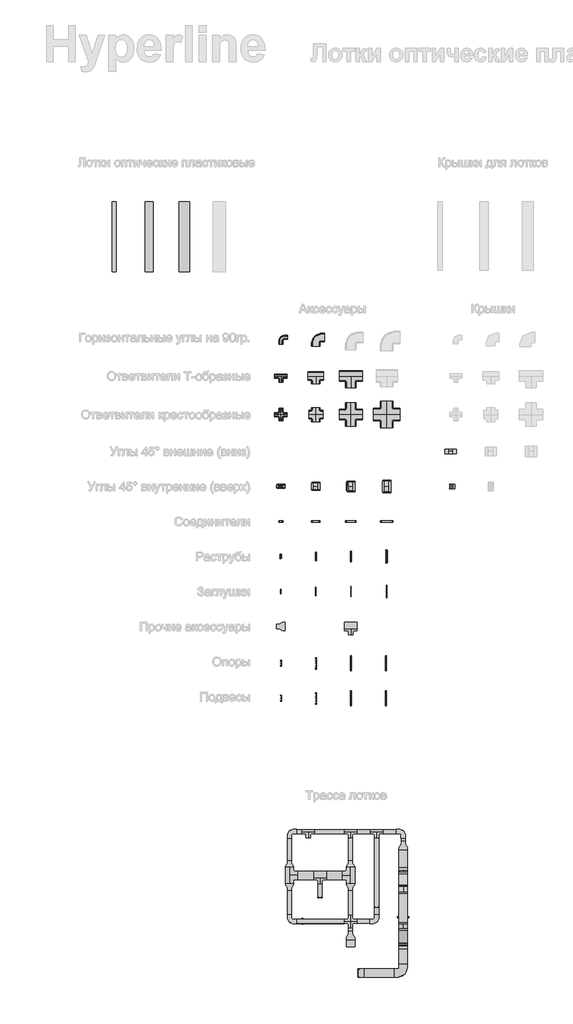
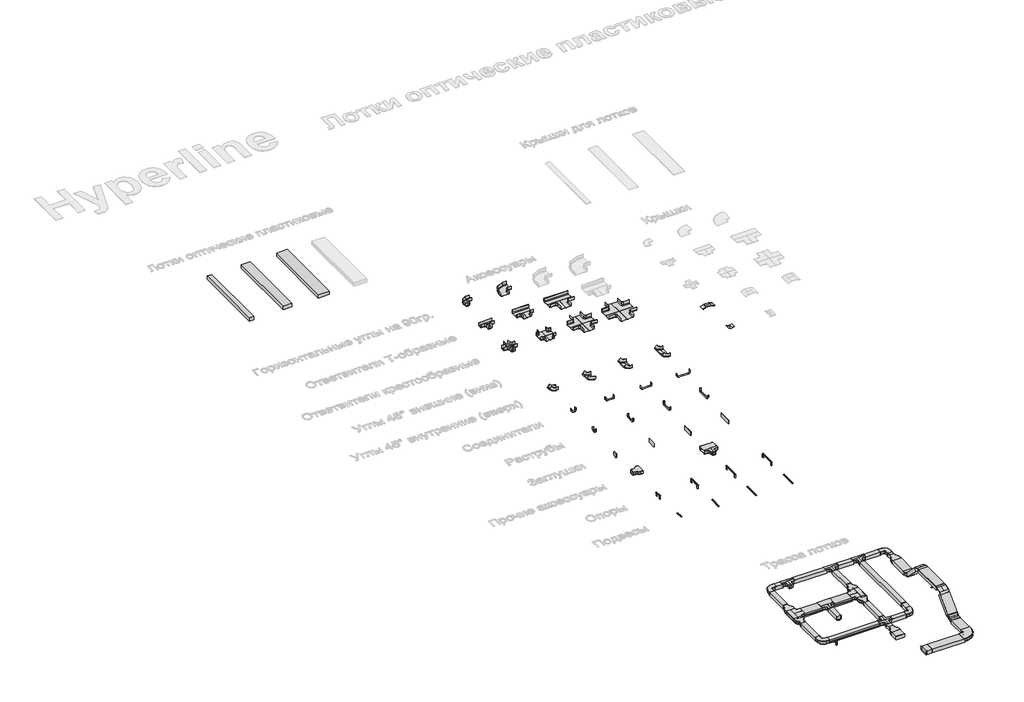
# One storey, part 1 of 11: 92 cable carrier fittings, 28 cable carrier segments.
"""IFC4 building model written with IfcOpenShell, lengths in millimetres."""

from ifc_helpers import new_model, si_unit, frame, origin, place, context, project, spatial, polyline, outline, extrude, transform, mapped, element, save
from components import cable_carrier_fitting_61f211ba, cable_carrier_fitting_c6026d33, cable_carrier_fitting_2b42971a, cable_carrier_fitting_88c24c74, cable_carrier_fitting_4b1483c7, cable_carrier_fitting_1155e773, cable_carrier_fitting_af3ef7cb, cable_carrier_fitting_16fe6e49, cable_carrier_fitting_982ae81b, cable_carrier_fitting_4c80ffbf, cable_carrier_fitting_9f29c945, cable_carrier_fitting_a6652477, cable_carrier_fitting_ee7e6493, cable_carrier_fitting_f618252d, cable_carrier_fitting_21d1bafc, cable_carrier_fitting_c87bc051, cable_carrier_fitting_9178dd5c, cable_carrier_fitting_0fe43b8c, cable_carrier_fitting_54b00675, cable_carrier_fitting_23931724, cable_carrier_fitting_965c9b59, cable_carrier_fitting_6c60c4c2, cable_carrier_fitting_08320c8d, cable_carrier_fitting_ac9cbfa4, cable_carrier_fitting_c851f92b, cable_carrier_fitting_47155b8e, cable_carrier_fitting_5769e5f2, cable_carrier_fitting_33d41878, cable_carrier_fitting_1b5bf073, cable_carrier_fitting_6c73aa63, cable_carrier_fitting_607e7183, cable_carrier_fitting_59de4e2b, cable_carrier_fitting_dffab509, cable_carrier_fitting_50b0d15a, cable_carrier_fitting_166d4458, cable_carrier_fitting_28f04403, cable_carrier_fitting_a7401430, cable_carrier_fitting_f8632dee, cable_carrier_fitting_9f67b875, cable_carrier_fitting_865a7457, cable_carrier_fitting_3dfe4c8f, cable_carrier_fitting_5b634e76, cable_carrier_fitting_eb514e49, cable_carrier_fitting_c3bb7252, cable_carrier_fitting_38266bb1, cable_carrier_fitting_df319fd5, cable_carrier_fitting_8dd5b208, cable_carrier_fitting_287ba553, cable_carrier_fitting_dee94531, cable_carrier_fitting_b2320f43, cable_carrier_fitting_acd78cd3, cable_carrier_fitting_dcf25ac8, cable_carrier_fitting_25f01132

model = new_model("IFC4")

# Units and contexts
model_context = context("Model", 3, world=origin())
ifc_project = project(units=[si_unit("LENGTHUNIT", "METRE", prefix="MILLI")], contexts=[model_context])

# Site, building, storey
site = spatial("IfcSite", under=ifc_project)
building = spatial("IfcBuilding", under=site)
storey = spatial("IfcBuildingStorey", under=building, Name="Этаж 01", Elevation=0.0)

# Cable carrier fittings
placement = place(None, origin())
cable_carrier_fitting_shape = cable_carrier_fitting_61f211ba(model_context)
element("IfcCableCarrierFitting", 1, ObjectType="CCT_Hyperline_FBTR-TTR Заглушка для оптического лотка : Заглушка для оптического лотка", at=placement, inside=storey, context=model_context, shape_type="MappedRepresentation", body=[
    mapped(cable_carrier_fitting_shape, transform((-11725.7109643, -10485.4372521, 150.0145793), x_axis=(-1.0, 0.0, 0.0), y_axis=(0.0, -0.99999999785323, 6.552510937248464e-05), z_axis=(0.0, 6.552510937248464e-05, 0.99999999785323))),
])
cable_carrier_fitting_2_shape = cable_carrier_fitting_c6026d33(model_context)
element("IfcCableCarrierFitting", 2, ObjectType="CCT_Hyperline_FBTR_EFS_Опора_для_установки_оптического_лотка : Опора для установки оптического лотка", at=placement, inside=storey, context=model_context, shape_type="MappedRepresentation", body=[
    mapped(cable_carrier_fitting_2_shape, transform((-13098.2104746, -9755.8836008, 0.0), x_axis=(0.0, 1.0, 0.0), y_axis=(-1.0, 0.0, 0.0), z_axis=(0.0, 0.0, 1.0))),
])
element("IfcCableCarrierFitting", 3, ObjectType="CCT_Hyperline_FBTR_EFS_Опора_для_установки_оптического_лотка : Опора для установки оптического лотка", at=placement, inside=storey, context=model_context, shape_type="MappedRepresentation", body=[
    mapped(cable_carrier_fitting_2_shape, transform((-13717.6934482, -2392.4690468, 0.0), x_axis=(0.0, 1.0, 0.0), y_axis=(-1.0, 0.0, 0.0), z_axis=(0.0, 0.0, 1.0))),
])
cable_carrier_fitting_3_shape = cable_carrier_fitting_2b42971a(model_context)
element("IfcCableCarrierFitting", 4, ObjectType="CCT_Hyperline_FBTR_BAR_Подвес_для_оптического_лотка : Подвес для оптического лотка", at=placement, inside=storey, context=model_context, shape_type="MappedRepresentation", body=[
    mapped(cable_carrier_fitting_3_shape, transform((-13717.6934482, -3392.4690468, 0.0), x_axis=(0.0, 1.0, 0.0), y_axis=(-1.0, 0.0, 0.0), z_axis=(0.0, 0.0, 1.0))),
])
cable_carrier_fitting_4_shape = cable_carrier_fitting_88c24c74(model_context)
element("IfcCableCarrierFitting", 5, ObjectType="ССT_Hyperline_FBTR-IRS45 Угол 45° внутренний (вверх) для оптического лотка : Угол 45° внутренний (вверх) для оптического лотка", at=placement, inside=storey, context=model_context, shape_type="MappedRepresentation", body=[
    mapped(cable_carrier_fitting_4_shape, transform((-13717.6934482, 2656.5295573, 100.0), x_axis=(0.7071067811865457, 0.0, -0.7071067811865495), y_axis=(0.7071067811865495, 0.0, 0.7071067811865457), z_axis=(0.0, -1.0, 0.0))),
])
cable_carrier_fitting_5_shape = cable_carrier_fitting_4b1483c7(model_context)
element("IfcCableCarrierFitting", 6, ObjectType="ССT_Hyperline_FBTR-IRS45 Угол 45° внутренний (вверх) для оптического лотка : Угол 45° внутренний (вверх) для оптического лотка", at=placement, inside=storey, context=model_context, shape_type="MappedRepresentation", body=[
    mapped(cable_carrier_fitting_5_shape, transform((-12717.6934482, 2656.5295573, 100.0), x_axis=(0.7071067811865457, 0.0, -0.7071067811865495), y_axis=(0.7071067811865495, 0.0, 0.7071067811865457), z_axis=(0.0, -1.0, 0.0))),
])
cable_carrier_fitting_6_shape = cable_carrier_fitting_1155e773(model_context)
element("IfcCableCarrierFitting", 7, ObjectType="ССT_Hyperline_FBTR-IRS45 Угол 45° внутренний (вверх) для оптического лотка : Угол 45° внутренний (вверх) для оптического лотка", at=placement, inside=storey, context=model_context, shape_type="MappedRepresentation", body=[
    mapped(cable_carrier_fitting_6_shape, transform((-11717.6934482, 2656.5295573, 100.0), x_axis=(0.7071067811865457, 0.0, -0.7071067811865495), y_axis=(0.7071067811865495, 0.0, 0.7071067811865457), z_axis=(0.0, -1.0, 0.0))),
])
cable_carrier_fitting_7_shape = cable_carrier_fitting_af3ef7cb(model_context)
element("IfcCableCarrierFitting", 8, ObjectType="ССT_Hyperline_FBTR-IRS45 Угол 45° внутренний (вверх) для оптического лотка : Угол 45° внутренний (вверх) для оптического лотка", at=placement, inside=storey, context=model_context, shape_type="MappedRepresentation", body=[
    mapped(cable_carrier_fitting_7_shape, transform((-10692.0217692, 2656.5295573, 100.0), x_axis=(0.7071067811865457, 0.0, -0.7071067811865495), y_axis=(0.7071067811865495, 0.0, 0.7071067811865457), z_axis=(0.0, -1.0, 0.0))),
])
element("IfcCableCarrierFitting", 9, ObjectType="ССT_Hyperline_FBTR-IRS45 Угол 45° внутренний (вверх) для оптического лотка : Угол 45° внутренний (вверх) для оптического лотка", at=placement, inside=storey, context=model_context, shape_type="MappedRepresentation", body=[
    mapped(cable_carrier_fitting_5_shape, transform((-10218.1543642, -10422.4542398, 123.429361), x_axis=(0.0, 1.0, 0.0), y_axis=(0.0, 0.0, 1.0), z_axis=(1.0, 0.0, 0.0))),
])
element("IfcCableCarrierFitting", 10, ObjectType="ССT_Hyperline_FBTR-IRS45 Угол 45° внутренний (вверх) для оптического лотка : Угол 45° внутренний (вверх) для оптического лотка", at=placement, inside=storey, context=model_context, shape_type="MappedRepresentation", body=[
    mapped(cable_carrier_fitting_5_shape, transform((-10218.1543642, -8350.8836008, 150.0), x_axis=(0.0, 0.7071067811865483, -0.7071067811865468), y_axis=(0.0, 0.7071067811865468, 0.7071067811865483), z_axis=(1.0, 0.0, 0.0))),
])
cable_carrier_fitting_8_shape = cable_carrier_fitting_16fe6e49(model_context)
element("IfcCableCarrierFitting", 11, ObjectType="CCT_Hyperline_FBTR-ELB90-CVR_Крышка на горизонтальный изгиб на 90°пластиковый : Крышка на горизонтальный изгиб на 90° пластиковый", at=placement, inside=storey, context=model_context, shape_type="MappedRepresentation", body=[
    mapped(cable_carrier_fitting_8_shape, transform((-10309.4294383, -7358.9394079, 150.0), x_axis=(1.0, 0.0, 0.0), y_axis=(0.0, 1.0, 0.0), z_axis=(0.0, 0.0, 1.0))),
])
element("IfcCableCarrierFitting", 12, ObjectType="CCT_Hyperline_FBTR-ELB90-CVR_Крышка на горизонтальный изгиб на 90°пластиковый : Крышка на горизонтальный изгиб на 90° пластиковый", at=placement, inside=storey, context=model_context, shape_type="MappedRepresentation", body=[
    mapped(cable_carrier_fitting_8_shape, transform((-11143.7101712, -9664.6085266, 150.0), x_axis=(0.0, -1.0, 0.0), y_axis=(1.0, 0.0, 0.0), z_axis=(0.0, 0.0, 1.0))),
])
element("IfcCableCarrierFitting", 13, ObjectType="CCT_Hyperline_FBTR-ELB90-CVR_Крышка на горизонтальный изгиб на 90°пластиковый : Крышка на горизонтальный изгиб на 90° пластиковый", at=placement, inside=storey, context=model_context, shape_type="MappedRepresentation", body=[
    mapped(cable_carrier_fitting_8_shape, transform((-13376.87929, -9592.8277937, 150.0), x_axis=(-1.0, 0.0, 0.0), y_axis=(0.0, -1.0, 0.0), z_axis=(0.0, 0.0, 1.0))),
])
element("IfcCableCarrierFitting", 14, ObjectType="CCT_Hyperline_FBTR-ELB90-CVR_Крышка на горизонтальный изгиб на 90°пластиковый : Крышка на горизонтальный изгиб на 90° пластиковый", at=placement, inside=storey, context=model_context, shape_type="MappedRepresentation", body=[
    mapped(cable_carrier_fitting_8_shape, transform((-13305.0985571, -7287.158675, 150.0), x_axis=(0.0, 1.0, 0.0), y_axis=(-1.0, 0.0, 0.0), z_axis=(0.0, 0.0, 1.0))),
])
cable_carrier_fitting_9_shape = cable_carrier_fitting_982ae81b(model_context)
element("IfcCableCarrierFitting", 15, ObjectType="CCT_Hyperline_FBTR-ELB90-CVR_Крышка на горизонтальный изгиб на 90°пластиковый : Крышка на горизонтальный изгиб на 90° пластиковый", at=placement, inside=storey, context=model_context, shape_type="MappedRepresentation", body=[
    mapped(cable_carrier_fitting_9_shape, transform((-10381.2101712, -11139.6085266, 123.429361), x_axis=(0.0, -1.0, 0.0), y_axis=(1.0, 0.0, 0.0), z_axis=(0.0, 0.0, 1.0))),
])
cable_carrier_fitting_10_shape = cable_carrier_fitting_4c80ffbf(model_context)
element("IfcCableCarrierFitting", 16, ObjectType="CCT_Hyperline_FBTR-CRS-CVR_Крышка на ответвитель крестообразный пластиковый : Крышка на ответвитель крестообразный пластиковый", at=placement, inside=storey, context=model_context, shape_type="MappedRepresentation", body=[
    mapped(cable_carrier_fitting_10_shape, transform((-11725.7109643, -9755.8836008, 150.0), x_axis=(-1.0, 0.0, 0.0), y_axis=(0.0, -1.0, 0.0), z_axis=(0.0, 0.0, 1.0))),
])
cable_carrier_fitting_11_shape = cable_carrier_fitting_9f29c945(model_context)
element("IfcCableCarrierFitting", 17, ObjectType="CCT_Hyperline_FBTR-ERS45-CVR Крышка на угол 45° внешний (вниз) для оптического лотка : Крышка на угол 45° внешний (вниз) для оптического лотка", at=placement, inside=storey, context=model_context, shape_type="MappedRepresentation", body=[
    mapped(cable_carrier_fitting_11_shape, transform((-8855.9617915, 3656.5295573, 100.0), x_axis=(0.0, 0.0, 1.0), y_axis=(1.0, 0.0, 0.0), z_axis=(0.0, 1.0, 0.0))),
])
cable_carrier_fitting_12_shape = cable_carrier_fitting_a6652477(model_context)
element("IfcCableCarrierFitting", 18, ObjectType="CCT_Hyperline_FBTR-ERS45-CVR Крышка на угол 45° внешний (вниз) для оптического лотка : Крышка на угол 45° внешний (вниз) для оптического лотка", at=placement, inside=storey, context=model_context, shape_type="MappedRepresentation", body=[
    mapped(cable_carrier_fitting_12_shape, transform((-10218.1543642, -8882.2333381, 604.1071841), x_axis=(0.0, 0.38268343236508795, 0.9238795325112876), y_axis=(0.0, -0.9238795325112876, 0.38268343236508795), z_axis=(1.0, 0.0, 0.0))),
])
element("IfcCableCarrierFitting", 19, ObjectType="CCT_Hyperline_FBTR-ERS45-CVR Крышка на угол 45° внешний (вниз) для оптического лотка : Крышка на угол 45° внешний (вниз) для оптического лотка", at=placement, inside=storey, context=model_context, shape_type="MappedRepresentation", body=[
    mapped(cable_carrier_fitting_12_shape, transform((-10218.1543642, -9864.5338635, 604.1071841), x_axis=(0.0, -0.3826834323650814, 0.9238795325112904), y_axis=(0.0, 0.9238795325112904, 0.3826834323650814), z_axis=(-1.0, 0.0, 0.0))),
])
cable_carrier_fitting_13_shape = cable_carrier_fitting_ee7e6493(model_context)
element("IfcCableCarrierFitting", 20, ObjectType="CCT_Hyperline_FBTR-IRS45-CVR Крышка на вертикальный угол 45° внутренний (вверх) для оптического лотка : Крышка на вертикальный угол 45° внутренний (вверх) для оптического лотка", at=placement, inside=storey, context=model_context, shape_type="MappedRepresentation", body=[
    mapped(cable_carrier_fitting_13_shape, transform((-10218.1543642, -10440.5113618, 167.02311), x_axis=(0.0, -0.3826834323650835, 0.9238795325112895), y_axis=(0.0, -0.9238795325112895, -0.3826834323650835), z_axis=(1.0, 0.0, 0.0))),
])
element("IfcCableCarrierFitting", 21, ObjectType="CCT_Hyperline_FBTR-IRS45-CVR Крышка на вертикальный угол 45° внутренний (вверх) для оптического лотка : Крышка на вертикальный угол 45° внутренний (вверх) для оптического лотка", at=placement, inside=storey, context=model_context, shape_type="MappedRepresentation", body=[
    mapped(cable_carrier_fitting_13_shape, transform((-10218.1543642, -8332.8264788, 193.5937489), x_axis=(0.0, 0.3826834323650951, 0.9238795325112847), y_axis=(0.0, -0.9238795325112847, 0.3826834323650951), z_axis=(1.0, 0.0, 0.0))),
])
cable_carrier_fitting_14_shape = cable_carrier_fitting_f618252d(model_context)
element("IfcCableCarrierFitting", 22, ObjectType="CCT_Hyperline_FBTR-IRS45-CVR Крышка на вертикальный угол 45° внутренний (вверх) для оптического лотка : Крышка на вертикальный угол 45° внутренний (вверх) для оптического лотка", at=placement, inside=storey, context=model_context, shape_type="MappedRepresentation", body=[
    mapped(cable_carrier_fitting_14_shape, transform((-8820.250773, 2656.5295573, 100.0), x_axis=(0.0, 0.0, 1.0), y_axis=(1.0, 0.0, 0.0), z_axis=(0.0, 1.0, 0.0))),
])
cable_carrier_fitting_15_shape = cable_carrier_fitting_21d1bafc(model_context)
element("IfcCableCarrierFitting", 23, ObjectType="ССT_Hyperline_FBTR-CVR-2000 Крышка для оптического лотка : Крышка для оптического лотка", at=placement, inside=storey, context=model_context, shape_type="MappedRepresentation", body=[
    mapped(cable_carrier_fitting_15_shape, transform((-10218.1543642, -9595.8836008, 650.0), x_axis=(0.0, -1.0, 0.0), y_axis=(1.0, 0.0, 0.0), z_axis=(0.0, 0.0, 1.0))),
])
cable_carrier_fitting_16_shape = cable_carrier_fitting_c87bc051(model_context)
element("IfcCableCarrierFitting", 24, ObjectType="ССT_Hyperline_FBTR-CVR-2000 Крышка для оптического лотка : Крышка для оптического лотка", at=placement, inside=storey, context=model_context, shape_type="MappedRepresentation", body=[
    mapped(cable_carrier_fitting_16_shape, transform((-12083.2109643, -9755.8836008, 90.9703689), x_axis=(1.0, 0.0, 0.0), y_axis=(0.0, 1.0, 0.0), z_axis=(0.0, 0.0, 1.0))),
])
cable_carrier_fitting_17_shape = cable_carrier_fitting_9178dd5c(model_context)
element("IfcCableCarrierFitting", 25, ObjectType="ССT_Hyperline_FBTR-CVR-2000 Крышка для оптического лотка : Крышка для оптического лотка", at=placement, inside=storey, context=model_context, shape_type="MappedRepresentation", body=[
    mapped(cable_carrier_fitting_17_shape, transform((-12949.4326642, -8445.8836008, 90.9703689), x_axis=(1.0, 0.0, 0.0), y_axis=(0.0, 1.0, 0.0), z_axis=(0.0, 0.0, 1.0))),
])
cable_carrier_fitting_18_shape = cable_carrier_fitting_0fe43b8c(model_context)
element("IfcCableCarrierFitting", 26, ObjectType="ССT_Hyperline_FBTR-CVR-2000 Крышка для оптического лотка : Крышка для оптического лотка", at=placement, inside=storey, context=model_context, shape_type="MappedRepresentation", body=[
    mapped(cable_carrier_fitting_18_shape, transform((-12130.7109643, -8445.8836008, 90.9703689), x_axis=(1.0, 0.0, 0.0), y_axis=(0.0, 1.0, 0.0), z_axis=(0.0, 0.0, 1.0))),
])
cable_carrier_fitting_19_shape = cable_carrier_fitting_54b00675(model_context)
element("IfcCableCarrierFitting", 27, ObjectType="CCT_Hyperline_FBTR-TSP Раструб для оптического лотка : Раструб для оптического лотка", at=placement, inside=storey, context=model_context, shape_type="MappedRepresentation", body=[
    mapped(cable_carrier_fitting_19_shape, transform((-13717.6934482, 656.5295573, 123.429361), x_axis=(0.0, 1.0, 0.0), y_axis=(-1.0, 0.0, 0.0), z_axis=(0.0, 0.0, 1.0))),
])
element("IfcCableCarrierFitting", 28, ObjectType="CCT_Hyperline_FBTR-TSP Раструб для оптического лотка : Раструб для оптического лотка", at=placement, inside=storey, context=model_context, shape_type="MappedRepresentation", body=[
    mapped(cable_carrier_fitting_19_shape, transform((-12596.9326642, -9063.879228, 150.0296308), x_axis=(-1.0, 0.0, 0.0), y_axis=(0.0, -0.9999999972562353, 7.407786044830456e-05), z_axis=(0.0, 7.407786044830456e-05, 0.9999999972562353))),
])
cable_carrier_fitting_20_shape = cable_carrier_fitting_23931724(model_context)
element("IfcCableCarrierFitting", 29, ObjectType="CCT_Hyperline_FBTR-TSP Раструб для оптического лотка : Раструб для оптического лотка", at=placement, inside=storey, context=model_context, shape_type="MappedRepresentation", body=[
    mapped(cable_carrier_fitting_20_shape, transform((-12717.6934482, 656.5295573, 123.429361), x_axis=(0.0, 1.0, 0.0), y_axis=(-1.0, 0.0, 0.0), z_axis=(0.0, 0.0, 1.0))),
])
element("IfcCableCarrierFitting", 30, ObjectType="CCT_Hyperline_FBTR-TSP Раструб для оптического лотка : Раструб для оптического лотка", at=placement, inside=storey, context=model_context, shape_type="MappedRepresentation", body=[
    mapped(cable_carrier_fitting_20_shape, transform((-11493.7109643, -11230.8836008, 123.429361), x_axis=(0.0, 1.0, 0.0), y_axis=(-1.0, 0.0, 0.0), z_axis=(0.0, 0.0, 1.0))),
])
cable_carrier_fitting_21_shape = cable_carrier_fitting_965c9b59(model_context)
element("IfcCableCarrierFitting", 31, ObjectType="CCT_Hyperline_FBTR-TSP Раструб для оптического лотка : Раструб для оптического лотка", at=placement, inside=storey, context=model_context, shape_type="MappedRepresentation", body=[
    mapped(cable_carrier_fitting_21_shape, transform((-11717.6934482, 656.5295573, 123.429361), x_axis=(0.0, 1.0, 0.0), y_axis=(-1.0, 0.0, 0.0), z_axis=(0.0, 0.0, 1.0))),
])
cable_carrier_fitting_22_shape = cable_carrier_fitting_6c60c4c2(model_context)
element("IfcCableCarrierFitting", 32, ObjectType="CCT_Hyperline_FBTR-TSP Раструб для оптического лотка : Раструб для оптического лотка", at=placement, inside=storey, context=model_context, shape_type="MappedRepresentation", body=[
    mapped(cable_carrier_fitting_22_shape, transform((-10692.0217692, 656.5295573, 123.429361), x_axis=(0.0, 1.0, 0.0), y_axis=(-1.0, 0.0, 0.0), z_axis=(0.0, 0.0, 1.0))),
])
cable_carrier_fitting_23_shape = cable_carrier_fitting_08320c8d(model_context)
element("IfcCableCarrierFitting", 33, ObjectType="CCT_Hyperline_FBTR-TTR Заглушка для оптического лотка : Заглушка для оптического лотка", at=placement, inside=storey, context=model_context, shape_type="MappedRepresentation", body=[
    mapped(cable_carrier_fitting_23_shape, transform((-13717.6934482, -343.4704427, 0.0), x_axis=(0.0, 1.0, 0.0), y_axis=(-1.0, 0.0, 0.0), z_axis=(0.0, 0.0, 1.0))),
])
cable_carrier_fitting_24_shape = cable_carrier_fitting_ac9cbfa4(model_context)
element("IfcCableCarrierFitting", 34, ObjectType="CCT_Hyperline_FBTR-TTR Заглушка для оптического лотка : Заглушка для оптического лотка", at=placement, inside=storey, context=model_context, shape_type="MappedRepresentation", body=[
    mapped(cable_carrier_fitting_24_shape, transform((-12717.6934482, -343.4704427, 0.0), x_axis=(0.0, 1.0, 0.0), y_axis=(-1.0, 0.0, 0.0), z_axis=(0.0, 0.0, 1.0))),
])
cable_carrier_fitting_25_shape = cable_carrier_fitting_c851f92b(model_context)
element("IfcCableCarrierFitting", 35, ObjectType="CCT_Hyperline_FBTR-TTR Заглушка для оптического лотка : Заглушка для оптического лотка", at=placement, inside=storey, context=model_context, shape_type="MappedRepresentation", body=[
    mapped(cable_carrier_fitting_25_shape, transform((-11717.6934482, -343.4704427, 0.0), x_axis=(0.0, 1.0, 0.0), y_axis=(-1.0, 0.0, 0.0), z_axis=(0.0, 0.0, 1.0))),
])
cable_carrier_fitting_26_shape = cable_carrier_fitting_47155b8e(model_context)
element("IfcCableCarrierFitting", 36, ObjectType="CCT_Hyperline_FBTR-TTR Заглушка для оптического лотка : Заглушка для оптического лотка", at=placement, inside=storey, context=model_context, shape_type="MappedRepresentation", body=[
    mapped(cable_carrier_fitting_26_shape, transform((-10692.0217692, -343.4704427, 0.0), x_axis=(0.0, 1.0, 0.0), y_axis=(-1.0, 0.0, 0.0), z_axis=(0.0, 0.0, 1.0))),
])
cable_carrier_fitting_27_shape = cable_carrier_fitting_5769e5f2(model_context)
element("IfcCableCarrierFitting", 37, ObjectType="CCT_Hyperline_FBTR_BAR_Подвес_для_оптического_лотка : Подвес для оптического лотка", at=placement, inside=storey, context=model_context, shape_type="MappedRepresentation", body=[
    mapped(cable_carrier_fitting_27_shape, transform((-10218.1543642, -9633.3836008, 0.0), x_axis=(1.0, 0.0, 0.0), y_axis=(0.0, 1.0, 0.0), z_axis=(0.0, 0.0, 1.0))),
])
cable_carrier_fitting_28_shape = cable_carrier_fitting_33d41878(model_context)
element("IfcCableCarrierFitting", 38, ObjectType="CCT_Hyperline_FBTR_BAR_Подвес_для_оптического_лотка : Подвес для оптического лотка", at=placement, inside=storey, context=model_context, shape_type="MappedRepresentation", body=[
    mapped(cable_carrier_fitting_28_shape, transform((-10218.1543642, -9693.3836008, 0.0), x_axis=(1.0, 0.0, 0.0), y_axis=(0.0, 1.0, 0.0), z_axis=(0.0, 0.0, 1.0))),
])
cable_carrier_fitting_29_shape = cable_carrier_fitting_1b5bf073(model_context)
element("IfcCableCarrierFitting", 39, ObjectType="CCT_Hyperline_FBTR_BAR_Подвес_для_оптического_лотка : Подвес для оптического лотка", at=placement, inside=storey, context=model_context, shape_type="MappedRepresentation", body=[
    mapped(cable_carrier_fitting_29_shape, transform((-12717.6934482, -3392.4690468, 0.0), x_axis=(0.0, 1.0, 0.0), y_axis=(-1.0, 0.0, 0.0), z_axis=(0.0, 0.0, 1.0))),
])
cable_carrier_fitting_30_shape = cable_carrier_fitting_6c73aa63(model_context)
element("IfcCableCarrierFitting", 40, ObjectType="CCT_Hyperline_FBTR_BAR_Подвес_для_оптического_лотка : Подвес для оптического лотка", at=placement, inside=storey, context=model_context, shape_type="MappedRepresentation", body=[
    mapped(cable_carrier_fitting_30_shape, transform((-11717.6934482, -3392.4690468, 0.0), x_axis=(0.0, 1.0, 0.0), y_axis=(-1.0, 0.0, 0.0), z_axis=(0.0, 0.0, 1.0))),
])
element("IfcCableCarrierFitting", 41, ObjectType="CCT_Hyperline_FBTR_BAR_Подвес_для_оптического_лотка : Подвес для оптического лотка", at=placement, inside=storey, context=model_context, shape_type="MappedRepresentation", body=[
    mapped(cable_carrier_fitting_30_shape, transform((-10717.6934482, -3392.4690468, 0.0), x_axis=(0.0, 1.0, 0.0), y_axis=(-1.0, 0.0, 0.0), z_axis=(0.0, 0.0, 1.0))),
])
cable_carrier_fitting_31_shape = cable_carrier_fitting_607e7183(model_context)
element("IfcCableCarrierFitting", 42, ObjectType="CCT_Hyperline_FBTR_EFS_Опора_для_установки_оптического_лотка : Опора для установки оптического лотка", at=placement, inside=storey, context=model_context, shape_type="MappedRepresentation", body=[
    mapped(cable_carrier_fitting_31_shape, transform((-12717.6934482, -2392.4690468, 0.0), x_axis=(0.0, 1.0, 0.0), y_axis=(-1.0, 0.0, 0.0), z_axis=(0.0, 0.0, 1.0))),
])
cable_carrier_fitting_32_shape = cable_carrier_fitting_59de4e2b(model_context)
element("IfcCableCarrierFitting", 43, ObjectType="CCT_Hyperline_FBTR_EFS_Опора_для_установки_оптического_лотка : Опора для установки оптического лотка", at=placement, inside=storey, context=model_context, shape_type="MappedRepresentation", body=[
    mapped(cable_carrier_fitting_32_shape, transform((-11717.6934482, -2392.4690468, 0.0), x_axis=(0.0, 1.0, 0.0), y_axis=(-1.0, 0.0, 0.0), z_axis=(0.0, 0.0, 1.0))),
])
element("IfcCableCarrierFitting", 44, ObjectType="CCT_Hyperline_FBTR_EFS_Опора_для_установки_оптического_лотка : Опора для установки оптического лотка", at=placement, inside=storey, context=model_context, shape_type="MappedRepresentation", body=[
    mapped(cable_carrier_fitting_32_shape, transform((-10717.6934482, -2392.4690468, 0.0), x_axis=(0.0, 1.0, 0.0), y_axis=(-1.0, 0.0, 0.0), z_axis=(0.0, 0.0, 1.0))),
])
cable_carrier_fitting_33_shape = cable_carrier_fitting_dffab509(model_context)
element("IfcCableCarrierFitting", 45, ObjectType="CCT_Hyperline_FBTR-240-RDC120 Переход 240-120 для оптического лотка : Переход 240-120 для оптического лотка", at=placement, inside=storey, context=model_context, shape_type="MappedRepresentation", body=[
    mapped(cable_carrier_fitting_33_shape, transform((-13468.1543642, -8140.8836008, 150.0), x_axis=(1.0, 0.0, 0.0), y_axis=(0.0, 1.0, 0.0), z_axis=(0.0, 0.0, 1.0))),
])
element("IfcCableCarrierFitting", 46, ObjectType="CCT_Hyperline_FBTR-240-RDC120 Переход 240-120 для оптического лотка : Переход 240-120 для оптического лотка", at=placement, inside=storey, context=model_context, shape_type="MappedRepresentation", body=[
    mapped(cable_carrier_fitting_33_shape, transform((-11725.7109643, -8750.8836008, 150.0), x_axis=(-1.0, 0.0, 0.0), y_axis=(0.0, -1.0, 0.0), z_axis=(0.0, 0.0, 1.0))),
])
element("IfcCableCarrierFitting", 47, ObjectType="CCT_Hyperline_FBTR-240-RDC120 Переход 240-120 для оптического лотка : Переход 240-120 для оптического лотка", at=placement, inside=storey, context=model_context, shape_type="MappedRepresentation", body=[
    mapped(cable_carrier_fitting_33_shape, transform((-10218.1543642, -7595.8836008, 150.0), x_axis=(1.0, 0.0, 0.0), y_axis=(0.0, 1.0, 0.0), z_axis=(0.0, 0.0, 1.0))),
])
element("IfcCableCarrierFitting", 48, ObjectType="CCT_Hyperline_FBTR-240-RDC120 Переход 240-120 для оптического лотка : Переход 240-120 для оптического лотка", at=placement, inside=storey, context=model_context, shape_type="MappedRepresentation", body=[
    mapped(cable_carrier_fitting_33_shape, transform((-13468.1543642, -8750.8836008, 150.0), x_axis=(-1.0, 0.0, 0.0), y_axis=(0.0, -1.0, 0.0), z_axis=(0.0, 0.0, 1.0))),
])
cable_carrier_fitting_34_shape = cable_carrier_fitting_50b0d15a(model_context)
element("IfcCableCarrierFitting", 49, ObjectType="CCT_Hyperline_FBTR-240-RDC120-CVR Крышка на переход 240-120 для оптического лотка : Крышка на переход 240-120 для оптического лотка", at=placement, inside=storey, context=model_context, shape_type="MappedRepresentation", body=[
    mapped(cable_carrier_fitting_34_shape, transform((-13468.1543642, -8140.8836008, 150.0), x_axis=(0.0, 1.0, 0.0), y_axis=(-1.0, 0.0, 0.0), z_axis=(0.0, 0.0, 1.0))),
])
element("IfcCableCarrierFitting", 50, ObjectType="CCT_Hyperline_FBTR-240-RDC120-CVR Крышка на переход 240-120 для оптического лотка : Крышка на переход 240-120 для оптического лотка", at=placement, inside=storey, context=model_context, shape_type="MappedRepresentation", body=[
    mapped(cable_carrier_fitting_34_shape, transform((-11725.7109643, -8750.8836008, 150.0), x_axis=(0.0, -1.0, 0.0), y_axis=(1.0, 0.0, 0.0), z_axis=(0.0, 0.0, 1.0))),
])
element("IfcCableCarrierFitting", 51, ObjectType="CCT_Hyperline_FBTR-240-RDC120-CVR Крышка на переход 240-120 для оптического лотка : Крышка на переход 240-120 для оптического лотка", at=placement, inside=storey, context=model_context, shape_type="MappedRepresentation", body=[
    mapped(cable_carrier_fitting_34_shape, transform((-10218.1543642, -7595.8836008, 150.0), x_axis=(0.0, 1.0, 0.0), y_axis=(-1.0, 0.0, 0.0), z_axis=(0.0, 0.0, 1.0))),
])
element("IfcCableCarrierFitting", 52, ObjectType="CCT_Hyperline_FBTR-240-RDC120-CVR Крышка на переход 240-120 для оптического лотка : Крышка на переход 240-120 для оптического лотка", at=placement, inside=storey, context=model_context, shape_type="MappedRepresentation", body=[
    mapped(cable_carrier_fitting_34_shape, transform((-13468.1543642, -8750.8836008, 150.0), x_axis=(0.0, -1.0, 0.0), y_axis=(1.0, 0.0, 0.0), z_axis=(0.0, 0.0, 1.0))),
])
cable_carrier_fitting_35_shape = cable_carrier_fitting_166d4458(model_context)
element("IfcCableCarrierFitting", 53, ObjectType="CCT_Hyperline_FBTR-240-RDC120 Переход 240-120 для оптического лотка : Переход 240-120 для оптического лотка", at=placement, inside=storey, context=model_context, shape_type="MappedRepresentation", body=[
    mapped(cable_carrier_fitting_35_shape, transform((-11725.7109643, -8140.8836008, 150.0), x_axis=(-1.0, 0.0, 0.0), y_axis=(0.0, -1.0, 0.0), z_axis=(0.0, 0.0, 1.0))),
])
element("IfcCableCarrierFitting", 54, ObjectType="CCT_Hyperline_FBTR-240-RDC120 Переход 240-120 для оптического лотка : Переход 240-120 для оптического лотка", at=placement, inside=storey, context=model_context, shape_type="MappedRepresentation", body=[
    mapped(cable_carrier_fitting_35_shape, transform((-11725.7109643, -10162.9372526, 150.0), x_axis=(-1.0, 0.0, 0.0), y_axis=(0.0, -1.0, 0.0), z_axis=(0.0, 0.0, 1.0))),
])
element("IfcCableCarrierFitting", 55, ObjectType="CCT_Hyperline_FBTR-240-RDC120 Переход 240-120 для оптического лотка : Переход 240-120 для оптического лотка", at=placement, inside=storey, context=model_context, shape_type="MappedRepresentation", body=[
    mapped(cable_carrier_fitting_35_shape, transform((-13717.5411434, -1343.4704427, 123.429361), x_axis=(0.0, -1.0, 0.0), y_axis=(1.0, 0.0, 0.0), z_axis=(0.0, 0.0, 1.0))),
])
cable_carrier_fitting_36_shape = cable_carrier_fitting_28f04403(model_context)
element("IfcCableCarrierFitting", 56, ObjectType="CCT_Hyperline_FBTR-240-RDC120-CVR Крышка на переход 240-120 для оптического лотка : Крышка на переход 240-120 для оптического лотка", at=placement, inside=storey, context=model_context, shape_type="MappedRepresentation", body=[
    mapped(cable_carrier_fitting_36_shape, transform((-11725.7109643, -8140.8836008, 150.0), x_axis=(0.0, -1.0, 0.0), y_axis=(1.0, 0.0, 0.0), z_axis=(0.0, 0.0, 1.0))),
])
element("IfcCableCarrierFitting", 57, ObjectType="CCT_Hyperline_FBTR-240-RDC120-CVR Крышка на переход 240-120 для оптического лотка : Крышка на переход 240-120 для оптического лотка", at=placement, inside=storey, context=model_context, shape_type="MappedRepresentation", body=[
    mapped(cable_carrier_fitting_36_shape, transform((-11725.7109643, -10162.9372526, 150.0), x_axis=(0.0, -1.0, 0.0), y_axis=(1.0, 0.0, 0.0), z_axis=(0.0, 0.0, 1.0))),
])
element("IfcCableCarrierFitting", 58, ObjectType="CCT_Hyperline_FBTR-240-RDC120-CVR Крышка на переход 240-120 для оптического лотка : Крышка на переход 240-120 для оптического лотка", at=placement, inside=storey, context=model_context, shape_type="MappedRepresentation", body=[
    mapped(cable_carrier_fitting_36_shape, transform((-13717.5411434, -1343.4704427, 123.429361), x_axis=(1.0, 0.0, 0.0), y_axis=(0.0, 1.0, 0.0), z_axis=(0.0, 0.0, 1.0))),
])
cable_carrier_fitting_37_shape = cable_carrier_fitting_a7401430(model_context)
element("IfcCableCarrierFitting", 59, ObjectType="ССT_Hyperline_FBTR-240-HTC120 Горизонтальный тройник 240-120-240 для оптического лотка : Горизонтальный тройник 240-120-240 для оптического лотка", at=placement, inside=storey, context=model_context, shape_type="MappedRepresentation", body=[
    mapped(cable_carrier_fitting_37_shape, transform((-12596.9326642, -8445.8836008, 150.0), x_axis=(1.0, 0.0, 0.0), y_axis=(0.0, 1.0, 0.0), z_axis=(0.0, 0.0, 1.0))),
])
element("IfcCableCarrierFitting", 60, ObjectType="ССT_Hyperline_FBTR-240-HTC120 Горизонтальный тройник 240-120-240 для оптического лотка : Горизонтальный тройник 240-120-240 для оптического лотка", at=placement, inside=storey, context=model_context, shape_type="MappedRepresentation", body=[
    mapped(cable_carrier_fitting_37_shape, transform((-11717.6934482, -1343.4704427, 90.9703689), x_axis=(1.0, 0.0, 0.0), y_axis=(0.0, 1.0, 0.0), z_axis=(0.0, 0.0, 1.0))),
])
cable_carrier_fitting_38_shape = cable_carrier_fitting_f8632dee(model_context)
element("IfcCableCarrierFitting", 61, ObjectType="CCT_Hyperline_FBTR-240-HTC120-CVR Крышка на горизонтальный тройник 240-120-240 для оптического лотка : Крышка на горизонтальный тройник 240-120-240 для оптического лотка", at=placement, inside=storey, context=model_context, shape_type="MappedRepresentation", body=[
    mapped(cable_carrier_fitting_38_shape, transform((-12596.9326642, -8506.3836008, 150.0), x_axis=(-1.0, 0.0, 0.0), y_axis=(0.0, -1.0, 0.0), z_axis=(0.0, 0.0, 1.0))),
])
element("IfcCableCarrierFitting", 62, ObjectType="CCT_Hyperline_FBTR-240-HTC120-CVR Крышка на горизонтальный тройник 240-120-240 для оптического лотка : Крышка на горизонтальный тройник 240-120-240 для оптического лотка", at=placement, inside=storey, context=model_context, shape_type="MappedRepresentation", body=[
    mapped(cable_carrier_fitting_38_shape, transform((-11717.6934482, -1403.9704427, 90.9703689), x_axis=(-1.0, 0.0, 0.0), y_axis=(0.0, -1.0, 0.0), z_axis=(0.0, 0.0, 1.0))),
])
cable_carrier_fitting_39_shape = cable_carrier_fitting_9f67b875(model_context)
element("IfcCableCarrierFitting", 63, ObjectType="CCT_Hyperline_FBTR-TEE-CVR Крышка на ответвитель Т-образный пластиковый : Крышка на ответвитель Т-образный пластиковый", at=placement, inside=storey, context=model_context, shape_type="MappedRepresentation", body=[
    mapped(cable_carrier_fitting_39_shape, transform((-13468.1543642, -8445.8836008, 150.0), x_axis=(0.0, -1.0, 0.0), y_axis=(1.0, 0.0, 0.0), z_axis=(0.0, 0.0, 1.0))),
])
element("IfcCableCarrierFitting", 64, ObjectType="CCT_Hyperline_FBTR-TEE-CVR Крышка на ответвитель Т-образный пластиковый : Крышка на ответвитель Т-образный пластиковый", at=placement, inside=storey, context=model_context, shape_type="MappedRepresentation", body=[
    mapped(cable_carrier_fitting_39_shape, transform((-11725.7109643, -8445.8836008, 150.0), x_axis=(0.0, 1.0, 0.0), y_axis=(-1.0, 0.0, 0.0), z_axis=(0.0, 0.0, 1.0))),
])
cable_carrier_fitting_40_shape = cable_carrier_fitting_865a7457(model_context)
element("IfcCableCarrierFitting", 65, ObjectType="CCT_Hyperline_FBTR-TEE-CVR Крышка на ответвитель Т-образный пластиковый : Крышка на ответвитель Т-образный пластиковый", at=placement, inside=storey, context=model_context, shape_type="MappedRepresentation", body=[
    mapped(cable_carrier_fitting_40_shape, transform((-11725.7109643, -7195.8836008, 150.0), x_axis=(-1.0, 0.0, 0.0), y_axis=(0.0, -1.0, 0.0), z_axis=(0.0, 0.0, 1.0))),
])
element("IfcCableCarrierFitting", 66, ObjectType="CCT_Hyperline_FBTR-TEE-CVR Крышка на ответвитель Т-образный пластиковый : Крышка на ответвитель Т-образный пластиковый", at=placement, inside=storey, context=model_context, shape_type="MappedRepresentation", body=[
    mapped(cable_carrier_fitting_40_shape, transform((-10980.6543642, -7195.8836008, 150.0), x_axis=(-1.0, 0.0, 0.0), y_axis=(0.0, -1.0, 0.0), z_axis=(0.0, 0.0, 1.0))),
])
element("IfcCableCarrierFitting", 67, ObjectType="CCT_Hyperline_FBTR-TEE-CVR Крышка на ответвитель Т-образный пластиковый : Крышка на ответвитель Т-образный пластиковый", at=placement, inside=storey, context=model_context, shape_type="MappedRepresentation", body=[
    mapped(cable_carrier_fitting_40_shape, transform((-12931.0064837, -7195.8836008, 150.0), x_axis=(-1.0, 0.0, 0.0), y_axis=(0.0, -1.0, 0.0), z_axis=(0.0, 0.0, 1.0))),
])
cable_carrier_fitting_41_shape = cable_carrier_fitting_3dfe4c8f(model_context)
element("IfcCableCarrierFitting", 68, ObjectType="CCT_Hyperline_FBTR-CNT Соединение лотков для оптического лотка : Соединение лотков для оптического лотка", at=placement, inside=storey, context=model_context, shape_type="MappedRepresentation", body=[
    mapped(cable_carrier_fitting_41_shape, transform((-13717.6934482, 1656.5295573, 100.0), x_axis=(1.0, 0.0, 0.0), y_axis=(0.0, 1.0, 0.0), z_axis=(0.0, 0.0, 1.0))),
])
element("IfcCableCarrierFitting", 69, ObjectType="CCT_Hyperline_FBTR-CNT Соединение лотков для оптического лотка : Соединение лотков для оптического лотка", at=placement, inside=storey, context=model_context, shape_type="MappedRepresentation", body=[
    mapped(cable_carrier_fitting_41_shape, transform((-10980.6543642, -9363.3836008, 150.0), x_axis=(1.0, 0.0, 0.0), y_axis=(0.0, 1.0, 0.0), z_axis=(0.0, 0.0, 1.0))),
])
cable_carrier_fitting_42_shape = cable_carrier_fitting_5b634e76(model_context)
element("IfcCableCarrierFitting", 70, ObjectType="CCT_Hyperline_FBTR-CNT Соединение лотков для оптического лотка : Соединение лотков для оптического лотка", at=placement, inside=storey, context=model_context, shape_type="MappedRepresentation", body=[
    mapped(cable_carrier_fitting_42_shape, transform((-12717.6934482, 1656.5295573, 100.0), x_axis=(1.0, 0.0, 0.0), y_axis=(0.0, 1.0, 0.0), z_axis=(0.0, 0.0, 1.0))),
])
cable_carrier_fitting_43_shape = cable_carrier_fitting_eb514e49(model_context)
element("IfcCableCarrierFitting", 71, ObjectType="CCT_Hyperline_FBTR-CNT Соединение лотков для оптического лотка : Соединение лотков для оптического лотка", at=placement, inside=storey, context=model_context, shape_type="MappedRepresentation", body=[
    mapped(cable_carrier_fitting_43_shape, transform((-11717.6934482, 1656.5295573, 100.0), x_axis=(1.0, 0.0, 0.0), y_axis=(0.0, 1.0, 0.0), z_axis=(0.0, 0.0, 1.0))),
])
cable_carrier_fitting_44_shape = cable_carrier_fitting_c3bb7252(model_context)
element("IfcCableCarrierFitting", 72, ObjectType="CCT_Hyperline_FBTR-CNT Соединение лотков для оптического лотка : Соединение лотков для оптического лотка", at=placement, inside=storey, context=model_context, shape_type="MappedRepresentation", body=[
    mapped(cable_carrier_fitting_44_shape, transform((-10692.0217692, 1656.5295573, 100.0), x_axis=(1.0, 0.0, 0.0), y_axis=(0.0, 1.0, 0.0), z_axis=(0.0, 0.0, 1.0))),
])
cable_carrier_fitting_45_shape = cable_carrier_fitting_38266bb1(model_context)
element("IfcCableCarrierFitting", 73, ObjectType="CCT_Hyperline_FBTR_ELB90 Горизонтальный изгиб на 90° пластиковый : Горизонтальный изгиб на 90° пластиковый", at=placement, inside=storey, context=model_context, shape_type="MappedRepresentation", body=[
    mapped(cable_carrier_fitting_45_shape, transform((-12717.6934482, 6906.5295573, 100.0), x_axis=(1.0, 0.0, 0.0), y_axis=(0.0, 1.0, 0.0), z_axis=(0.0, 0.0, 1.0))),
])
cable_carrier_fitting_46_shape = cable_carrier_fitting_df319fd5(model_context)
element("IfcCableCarrierFitting", 74, ObjectType="CCT_Hyperline_FBTR_ELB90 Горизонтальный изгиб на 90° пластиковый : Горизонтальный изгиб на 90° пластиковый", at=placement, inside=storey, context=model_context, shape_type="MappedRepresentation", body=[
    mapped(cable_carrier_fitting_46_shape, transform((-13717.6934482, 6906.5295573, 100.0), x_axis=(1.0, 0.0, 0.0), y_axis=(0.0, 1.0, 0.0), z_axis=(0.0, 0.0, 1.0))),
])
element("IfcCableCarrierFitting", 75, ObjectType="CCT_Hyperline_FBTR_ELB90 Горизонтальный изгиб на 90° пластиковый : Горизонтальный изгиб на 90° пластиковый", at=placement, inside=storey, context=model_context, shape_type="MappedRepresentation", body=[
    mapped(cable_carrier_fitting_46_shape, transform((-10218.1543642, -7195.8836008, 150.0), x_axis=(0.0, -1.0, 0.0), y_axis=(1.0, 0.0, 0.0), z_axis=(0.0, 0.0, 1.0))),
])
element("IfcCableCarrierFitting", 76, ObjectType="CCT_Hyperline_FBTR_ELB90 Горизонтальный изгиб на 90° пластиковый : Горизонтальный изгиб на 90° пластиковый", at=placement, inside=storey, context=model_context, shape_type="MappedRepresentation", body=[
    mapped(cable_carrier_fitting_46_shape, transform((-10980.6543642, -9755.8836008, 150.0), x_axis=(-1.0, 0.0, 0.0), y_axis=(0.0, -1.0, 0.0), z_axis=(0.0, 0.0, 1.0))),
])
element("IfcCableCarrierFitting", 77, ObjectType="CCT_Hyperline_FBTR_ELB90 Горизонтальный изгиб на 90° пластиковый : Горизонтальный изгиб на 90° пластиковый", at=placement, inside=storey, context=model_context, shape_type="MappedRepresentation", body=[
    mapped(cable_carrier_fitting_46_shape, transform((-13468.1543642, -9755.8836008, 150.0), x_axis=(0.0, 1.0, 0.0), y_axis=(-1.0, 0.0, 0.0), z_axis=(0.0, 0.0, 1.0))),
])
element("IfcCableCarrierFitting", 78, ObjectType="CCT_Hyperline_FBTR_ELB90 Горизонтальный изгиб на 90° пластиковый : Горизонтальный изгиб на 90° пластиковый", at=placement, inside=storey, context=model_context, shape_type="MappedRepresentation", body=[
    mapped(cable_carrier_fitting_46_shape, transform((-13468.1543642, -7195.8836008, 150.0), x_axis=(1.0, 0.0, 0.0), y_axis=(0.0, 1.0, 0.0), z_axis=(0.0, 0.0, 1.0))),
])
element("IfcCableCarrierFitting", 79, ObjectType="CCT_Hyperline_FBTR_ELB90 Горизонтальный изгиб на 90° пластиковый : Горизонтальный изгиб на 90° пластиковый", at=placement, inside=storey, context=model_context, shape_type="MappedRepresentation", body=[
    mapped(cable_carrier_fitting_45_shape, transform((-10218.1543642, -11230.8836008, 123.429361), x_axis=(-1.0, 0.0, 0.0), y_axis=(0.0, -1.0, 0.0), z_axis=(0.0, 0.0, 1.0))),
])
cable_carrier_fitting_47_shape = cable_carrier_fitting_8dd5b208(model_context)
element("IfcCableCarrierFitting", 80, ObjectType="ССT_Hyperline_FBTR-TEE Ответвитель Т-образный пластиковый : Ответвитель Т-образный пластиковый", at=placement, inside=storey, context=model_context, shape_type="MappedRepresentation", body=[
    mapped(cable_carrier_fitting_47_shape, transform((-13717.6934482, 5806.5295573, 100.0), x_axis=(1.0, 0.0, 0.0), y_axis=(0.0, 1.0, 0.0), z_axis=(0.0, 0.0, 1.0))),
])
cable_carrier_fitting_48_shape = cable_carrier_fitting_287ba553(model_context)
element("IfcCableCarrierFitting", 81, ObjectType="ССT_Hyperline_FBTR-TEE Ответвитель Т-образный пластиковый : Ответвитель Т-образный пластиковый", at=placement, inside=storey, context=model_context, shape_type="MappedRepresentation", body=[
    mapped(cable_carrier_fitting_48_shape, transform((-12717.6934482, 5806.5295573, 100.0), x_axis=(1.0, 0.0, 0.0), y_axis=(0.0, 1.0, 0.0), z_axis=(0.0, 0.0, 1.0))),
])
cable_carrier_fitting_49_shape = cable_carrier_fitting_dee94531(model_context)
element("IfcCableCarrierFitting", 82, ObjectType="ССT_Hyperline_FBTR-TEE Ответвитель Т-образный пластиковый : Ответвитель Т-образный пластиковый", at=placement, inside=storey, context=model_context, shape_type="MappedRepresentation", body=[
    mapped(cable_carrier_fitting_49_shape, transform((-11717.6934482, 5806.5295573, 100.0), x_axis=(1.0, 0.0, 0.0), y_axis=(0.0, 1.0, 0.0), z_axis=(0.0, 0.0, 1.0))),
])
element("IfcCableCarrierFitting", 83, ObjectType="ССT_Hyperline_FBTR-TEE Ответвитель Т-образный пластиковый : Ответвитель Т-образный пластиковый", at=placement, inside=storey, context=model_context, shape_type="MappedRepresentation", body=[
    mapped(cable_carrier_fitting_48_shape, transform((-13468.1543642, -8445.8836008, 150.0), x_axis=(0.0, 1.0, 0.0), y_axis=(-1.0, 0.0, 0.0), z_axis=(0.0, 0.0, 1.0))),
])
element("IfcCableCarrierFitting", 84, ObjectType="ССT_Hyperline_FBTR-TEE Ответвитель Т-образный пластиковый : Ответвитель Т-образный пластиковый", at=placement, inside=storey, context=model_context, shape_type="MappedRepresentation", body=[
    mapped(cable_carrier_fitting_48_shape, transform((-11725.7109643, -8445.8836008, 150.0), x_axis=(0.0, -1.0, 0.0), y_axis=(1.0, 0.0, 0.0), z_axis=(0.0, 0.0, 1.0))),
])
element("IfcCableCarrierFitting", 85, ObjectType="ССT_Hyperline_FBTR-TEE Ответвитель Т-образный пластиковый : Ответвитель Т-образный пластиковый", at=placement, inside=storey, context=model_context, shape_type="MappedRepresentation", body=[
    mapped(cable_carrier_fitting_47_shape, transform((-11725.7109643, -7195.8836008, 150.0), x_axis=(1.0, 0.0, 0.0), y_axis=(0.0, 1.0, 0.0), z_axis=(0.0, 0.0, 1.0))),
])
element("IfcCableCarrierFitting", 86, ObjectType="ССT_Hyperline_FBTR-TEE Ответвитель Т-образный пластиковый : Ответвитель Т-образный пластиковый", at=placement, inside=storey, context=model_context, shape_type="MappedRepresentation", body=[
    mapped(cable_carrier_fitting_47_shape, transform((-10980.6543642, -7195.8836008, 150.0), x_axis=(1.0, 0.0, 0.0), y_axis=(0.0, 1.0, 0.0), z_axis=(0.0, 0.0, 1.0))),
])
element("IfcCableCarrierFitting", 87, ObjectType="ССT_Hyperline_FBTR-TEE Ответвитель Т-образный пластиковый : Ответвитель Т-образный пластиковый", at=placement, inside=storey, context=model_context, shape_type="MappedRepresentation", body=[
    mapped(cable_carrier_fitting_47_shape, transform((-12931.0064837, -7195.8836008, 150.0), x_axis=(1.0, 0.0, 0.0), y_axis=(0.0, 1.0, 0.0), z_axis=(0.0, 0.0, 1.0))),
])
cable_carrier_fitting_50_shape = cable_carrier_fitting_b2320f43(model_context)
element("IfcCableCarrierFitting", 88, ObjectType="CCT_Hyperline_FBTR-CRS_Ответвитель крестообразный пластиковый : Ответвитель крестообразный пластиковый", at=placement, inside=storey, context=model_context, shape_type="MappedRepresentation", body=[
    mapped(cable_carrier_fitting_50_shape, transform((-13717.6934482, 4706.5295573, 100.0), x_axis=(0.0, 1.0, 0.0), y_axis=(-1.0, 0.0, 0.0), z_axis=(0.0, 0.0, 1.0))),
])
cable_carrier_fitting_51_shape = cable_carrier_fitting_acd78cd3(model_context)
element("IfcCableCarrierFitting", 89, ObjectType="CCT_Hyperline_FBTR-CRS_Ответвитель крестообразный пластиковый : Ответвитель крестообразный пластиковый", at=placement, inside=storey, context=model_context, shape_type="MappedRepresentation", body=[
    mapped(cable_carrier_fitting_51_shape, transform((-12717.6934482, 4706.5295573, 100.0), x_axis=(0.0, 1.0, 0.0), y_axis=(-1.0, 0.0, 0.0), z_axis=(0.0, 0.0, 1.0))),
])
cable_carrier_fitting_52_shape = cable_carrier_fitting_dcf25ac8(model_context)
element("IfcCableCarrierFitting", 90, ObjectType="CCT_Hyperline_FBTR-CRS_Ответвитель крестообразный пластиковый : Ответвитель крестообразный пластиковый", at=placement, inside=storey, context=model_context, shape_type="MappedRepresentation", body=[
    mapped(cable_carrier_fitting_52_shape, transform((-11717.6934482, 4706.5295573, 100.0), x_axis=(0.0, 1.0, 0.0), y_axis=(-1.0, 0.0, 0.0), z_axis=(0.0, 0.0, 1.0))),
])
cable_carrier_fitting_53_shape = cable_carrier_fitting_25f01132(model_context)
element("IfcCableCarrierFitting", 91, ObjectType="CCT_Hyperline_FBTR-CRS_Ответвитель крестообразный пластиковый : Ответвитель крестообразный пластиковый", at=placement, inside=storey, context=model_context, shape_type="MappedRepresentation", body=[
    mapped(cable_carrier_fitting_53_shape, transform((-10692.0217692, 4706.5295573, 100.0), x_axis=(0.0, 1.0, 0.0), y_axis=(-1.0, 0.0, 0.0), z_axis=(0.0, 0.0, 1.0))),
])
element("IfcCableCarrierFitting", 92, ObjectType="CCT_Hyperline_FBTR-CRS_Ответвитель крестообразный пластиковый : Ответвитель крестообразный пластиковый", at=placement, inside=storey, context=model_context, shape_type="MappedRepresentation", body=[
    mapped(cable_carrier_fitting_50_shape, transform((-11725.7109643, -9755.8836008, 150.0), x_axis=(-1.0, 0.0, 0.0), y_axis=(0.0, -1.0, 0.0), z_axis=(0.0, 0.0, 1.0))),
])

# Cable carrier segments
element("IfcCableCarrierSegment", 93, ObjectType="Hyperline_FBTR_Пластиковый лоток", at=placement, inside=storey, context=model_context, shape_type="SweptSolid", body=[
    extrude(outline(polyline([(-13408.1543642, -8040.8836008), (-13528.1543642, -8040.8836008), (-13528.1543642, -7367.3836008), (-13408.1543642, -7367.3836008), (-13408.1543642, -8040.8836008)])), frame((0.0, 0.0, 100.0), z_axis=(0.0, 0.0, 1.0), x_axis=(1.0, 0.0, 0.0)), (0.0, 0.0, 1.0), 100.0),
])
element("IfcCableCarrierSegment", 94, ObjectType="Hyperline_FBTR_Пластиковый лоток", at=placement, inside=storey, context=model_context, shape_type="SweptSolid", body=[
    extrude(outline(polyline([(-11785.7109643, -8850.8836008), (-11665.7109643, -8850.8836008), (-11665.7109643, -9598.3836008), (-11785.7109643, -9598.3836008), (-11785.7109643, -8850.8836008)])), frame((0.0, 0.0, 100.0), z_axis=(0.0, 0.0, 1.0), x_axis=(1.0, 0.0, 0.0)), (0.0, 0.0, 1.0), 100.0),
])
element("IfcCableCarrierSegment", 95, ObjectType="Hyperline_FBTR_Пластиковый лоток", at=placement, inside=storey, context=model_context, shape_type="SweptSolid", body=[
    extrude(outline(polyline([(-11568.2109643, -9815.8836008), (-11568.2109643, -9695.8836008), (-11152.1543642, -9695.8836008), (-11152.1543642, -9815.8836008), (-11568.2109643, -9815.8836008)])), frame((0.0, 0.0, 100.0), z_axis=(0.0, 0.0, 1.0), x_axis=(1.0, 0.0, 0.0)), (0.0, 0.0, 1.0), 100.0),
])
element("IfcCableCarrierSegment", 96, ObjectType="Hyperline_FBTR_Пластиковый лоток", at=placement, inside=storey, context=model_context, shape_type="SweptSolid", body=[
    extrude(outline(polyline([(-11785.7109643, -9913.3836008), (-11665.7109643, -9913.3836008), (-11665.7109643, -10062.9372526), (-11785.7109643, -10062.9372526), (-11785.7109643, -9913.3836008)])), frame((0.0, 0.0, 100.0), z_axis=(0.0, 0.0, 1.0), x_axis=(1.0, 0.0, 0.0)), (0.0, 0.0, 1.0), 100.0),
])
element("IfcCableCarrierSegment", 97, ObjectType="Hyperline_FBTR_Пластиковый лоток", at=placement, inside=storey, context=model_context, shape_type="SweptSolid", body=[
    extrude(outline(polyline([(-10098.1543642, -10998.8836008), (-10338.1543642, -10998.8836008), (-10338.1543642, -10522.4542398), (-10098.1543642, -10522.4542398), (-10098.1543642, -10998.8836008)])), frame((0.0, 0.0, 73.429361), z_axis=(0.0, 0.0, 1.0), x_axis=(1.0, 0.0, 0.0)), (0.0, 0.0, 1.0), 100.0),
])
element("IfcCableCarrierSegment", 98, ObjectType="Hyperline_FBTR_Пластиковый лоток", at=placement, inside=storey, context=model_context, shape_type="SweptSolid", body=[
    extrude(outline(polyline([(120.0, 180.0), (120.0, 80.0), (-120.0, 80.0), (-120.0, 180.0), (120.0, 180.0)])), frame((-10218.1543642, -10443.6674432, 286.0639207), z_axis=(0.0, 0.7071067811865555, 0.7071067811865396), x_axis=(1.0, 0.0, 0.0)), (0.0, 0.0, 1.0), 544.6833392),
])
element("IfcCableCarrierSegment", 99, ObjectType="Hyperline_FBTR_Пластиковый лоток", at=placement, inside=storey, context=model_context, shape_type="SweptSolid", body=[
    extrude(outline(polyline([(-10338.1543642, -8950.8836008), (-10098.1543642, -8950.8836008), (-10098.1543642, -9795.8836008), (-10338.1543642, -9795.8836008), (-10338.1543642, -8950.8836008)])), frame((0.0, 0.0, 600.0), z_axis=(0.0, 0.0, 1.0), x_axis=(1.0, 0.0, 0.0)), (0.0, 0.0, 1.0), 100.0),
])
element("IfcCableCarrierSegment", 100, ObjectType="Hyperline_FBTR_Пластиковый лоток", at=placement, inside=storey, context=model_context, shape_type="SweptSolid", body=[
    extrude(outline(polyline([(0.0, -240.0), (0.0, 0.0), (507.1067811, 0.0), (507.1067811, -240.0), (0.0, -240.0)])), frame((-10338.1543642, -8815.5282617, 543.9339828), z_axis=(0.0, 0.7071067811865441, 0.707106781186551), x_axis=(0.0, 0.707106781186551, -0.7071067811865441)), (0.0, 0.0, 1.0), 100.0),
])
element("IfcCableCarrierSegment", 101, ObjectType="Hyperline_FBTR_Пластиковый лоток", at=placement, inside=storey, context=model_context, shape_type="SweptSolid", body=[
    extrude(outline(polyline([(-10098.1543642, -8250.8836008), (-10338.1543642, -8250.8836008), (-10338.1543642, -7695.8836008), (-10098.1543642, -7695.8836008), (-10098.1543642, -8250.8836008)])), frame((0.0, 0.0, 100.0), z_axis=(0.0, 0.0, 1.0), x_axis=(1.0, 0.0, 0.0)), (0.0, 0.0, 1.0), 100.0),
])
element("IfcCableCarrierSegment", 102, ObjectType="Hyperline_FBTR_Пластиковый лоток", at=placement, inside=storey, context=model_context, shape_type="SweptSolid", body=[
    extrude(outline(polyline([(-11040.6543642, -7353.3836008), (-10920.6543642, -7353.3836008), (-10920.6543642, -9353.3836008), (-11040.6543642, -9353.3836008), (-11040.6543642, -7353.3836008)])), frame((0.0, 0.0, 100.0), z_axis=(0.0, 0.0, 1.0), x_axis=(1.0, 0.0, 0.0)), (0.0, 0.0, 1.0), 100.0),
])
element("IfcCableCarrierSegment", 103, ObjectType="Hyperline_FBTR_Пластиковый лоток", at=placement, inside=storey, context=model_context, shape_type="SweptSolid", body=[
    extrude(outline(polyline([(-13528.1543642, -8850.8836008), (-13408.1543642, -8850.8836008), (-13408.1543642, -9584.3836008), (-13528.1543642, -9584.3836008), (-13528.1543642, -8850.8836008)])), frame((0.0, 0.0, 100.0), z_axis=(0.0, 0.0, 1.0), x_axis=(1.0, 0.0, 0.0)), (0.0, 0.0, 1.0), 100.0),
])
element("IfcCableCarrierSegment", 104, ObjectType="Hyperline_FBTR_Пластиковый лоток", at=placement, inside=storey, context=model_context, shape_type="SweptSolid", body=[
    extrude(outline(polyline([(-10158.1543642, -7495.8836008), (-10278.1543642, -7495.8836008), (-10278.1543642, -7367.3836008), (-10158.1543642, -7367.3836008), (-10158.1543642, -7495.8836008)])), frame((0.0, 0.0, 100.0), z_axis=(0.0, 0.0, 1.0), x_axis=(1.0, 0.0, 0.0)), (0.0, 0.0, 1.0), 100.0),
])
element("IfcCableCarrierSegment", 105, ObjectType="Hyperline_FBTR_Пластиковый лоток", at=placement, inside=storey, context=model_context, shape_type="SweptSolid", body=[
    extrude(outline(polyline([(-11785.7109643, -7353.3836008), (-11665.7109643, -7353.3836008), (-11665.7109643, -8040.8836008), (-11785.7109643, -8040.8836008), (-11785.7109643, -7353.3836008)])), frame((0.0, 0.0, 100.0), z_axis=(0.0, 0.0, 1.0), x_axis=(1.0, 0.0, 0.0)), (0.0, 0.0, 1.0), 100.0),
])
element("IfcCableCarrierSegment", 106, ObjectType="Hyperline_FBTR_Пластиковый лоток", at=placement, inside=storey, context=model_context, shape_type="SweptSolid", body=[
    extrude(outline(polyline([(-18417.9502991, 8781.5295573), (-18537.9502991, 8781.5295573), (-18537.9502991, 10781.5295573), (-18417.9502991, 10781.5295573), (-18417.9502991, 8781.5295573)])), frame((0.0, 0.0, 50.0), z_axis=(0.0, 0.0, 1.0), x_axis=(1.0, 0.0, 0.0)), (0.0, 0.0, 1.0), 100.0),
])
element("IfcCableCarrierSegment", 107, ObjectType="Hyperline_FBTR_Пластиковый лоток", at=placement, inside=storey, context=model_context, shape_type="SweptSolid", body=[
    extrude(outline(polyline([(-17357.9502991, 8781.5295573), (-17597.9502991, 8781.5295573), (-17597.9502991, 10781.5295573), (-17357.9502991, 10781.5295573), (-17357.9502991, 8781.5295573)])), frame((0.0, 0.0, 50.0), z_axis=(0.0, 0.0, 1.0), x_axis=(1.0, 0.0, 0.0)), (0.0, 0.0, 1.0), 100.0),
])
element("IfcCableCarrierSegment", 108, ObjectType="Hyperline_FBTR_Пластиковый лоток", at=placement, inside=storey, context=model_context, shape_type="SweptSolid", body=[
    extrude(outline(polyline([(-16327.9502991, 8781.5295573), (-16627.9502991, 8781.5295573), (-16627.9502991, 10781.5295573), (-16327.9502991, 10781.5295573), (-16327.9502991, 8781.5295573)])), frame((0.0, 0.0, 50.0), z_axis=(0.0, 0.0, 1.0), x_axis=(1.0, 0.0, 0.0)), (0.0, 0.0, 1.0), 100.0),
])
element("IfcCableCarrierSegment", 109, ObjectType="Hyperline_FBTR_Пластиковый лоток", at=placement, inside=storey, context=model_context, shape_type="SweptSolid", body=[
    extrude(outline(polyline([(-10389.6543642, -7135.8836008), (-10389.6543642, -7255.8836008), (-10823.1543642, -7255.8836008), (-10823.1543642, -7135.8836008), (-10389.6543642, -7135.8836008)])), frame((0.0, 0.0, 100.0), z_axis=(0.0, 0.0, 1.0), x_axis=(1.0, 0.0, 0.0)), (0.0, 0.0, 1.0), 100.0),
])
element("IfcCableCarrierSegment", 110, ObjectType="Hyperline_FBTR_Пластиковый лоток", at=placement, inside=storey, context=model_context, shape_type="SweptSolid", body=[
    extrude(outline(polyline([(-10920.6543642, -9584.3836008), (-11040.6543642, -9584.3836008), (-11040.6543642, -9373.3836008), (-10920.6543642, -9373.3836008), (-10920.6543642, -9584.3836008)])), frame((0.0, 0.0, 100.0), z_axis=(0.0, 0.0, 1.0), x_axis=(1.0, 0.0, 0.0)), (0.0, 0.0, 1.0), 100.0),
])
element("IfcCableCarrierSegment", 111, ObjectType="Hyperline_FBTR_Пластиковый лоток", at=placement, inside=storey, context=model_context, shape_type="SweptSolid", body=[
    extrude(outline(polyline([(0.0, -240.0), (0.0, 0.0), (220.0, 0.0), (220.0, -240.0), (0.0, -240.0)])), frame((-11605.7109643, -10262.9405288, 100.0000001), z_axis=(0.0, 6.552510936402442e-05, 0.99999999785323), x_axis=(0.0, -0.99999999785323, 6.552510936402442e-05)), (0.0, 0.0, 1.0), 100.0),
])
element("IfcCableCarrierSegment", 112, ObjectType="Hyperline_FBTR_Пластиковый лоток", at=placement, inside=storey, context=model_context, shape_type="SweptSolid", body=[
    extrude(outline(polyline([(-11930.7109643, -8325.8836008), (-11930.7109643, -8565.8836008), (-12439.4326642, -8565.8836008), (-12439.4326642, -8325.8836008), (-11930.7109643, -8325.8836008)])), frame((0.0, 0.0, 100.0), z_axis=(0.0, 0.0, 1.0), x_axis=(1.0, 0.0, 0.0)), (0.0, 0.0, 1.0), 100.0),
])
element("IfcCableCarrierSegment", 113, ObjectType="Hyperline_FBTR_Пластиковый лоток", at=placement, inside=storey, context=model_context, shape_type="SweptSolid", body=[
    extrude(outline(polyline([(0.0, -119.9999997), (0.0, 0.0), (399.9956283, 0.0), (399.9956283, -119.9999997), (0.0, -119.9999997)])), frame((-12536.9326644, -8663.8873047, 100.0000003), z_axis=(0.0, 7.407786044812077e-05, 0.9999999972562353), x_axis=(0.0, -0.9999999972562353, 7.407786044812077e-05)), (0.0, 0.0, 1.0), 99.9999997),
])
element("IfcCableCarrierSegment", 114, ObjectType="Hyperline_FBTR_Пластиковый лоток", at=placement, inside=storey, context=model_context, shape_type="SweptSolid", body=[
    extrude(outline(polyline([(-11883.2109643, -9695.8836008), (-11883.2109643, -9815.8836008), (-13296.6543642, -9815.8836008), (-13296.6543642, -9695.8836008), (-11883.2109643, -9695.8836008)])), frame((0.0, 0.0, 100.0), z_axis=(0.0, 0.0, 1.0), x_axis=(1.0, 0.0, 0.0)), (0.0, 0.0, 1.0), 100.0),
])
element("IfcCableCarrierSegment", 115, ObjectType="Hyperline_FBTR_Пластиковый лоток", at=placement, inside=storey, context=model_context, shape_type="SweptSolid", body=[
    extrude(outline(polyline([(-11138.1543642, -7135.8836008), (-11138.1543642, -7255.8836008), (-11568.2109643, -7255.8836008), (-11568.2109643, -7135.8836008), (-11138.1543642, -7135.8836008)])), frame((0.0, 0.0, 100.0), z_axis=(0.0, 0.0, 1.0), x_axis=(1.0, 0.0, 0.0)), (0.0, 0.0, 1.0), 100.0),
])
element("IfcCableCarrierSegment", 116, ObjectType="Hyperline_FBTR_Пластиковый лоток", at=placement, inside=storey, context=model_context, shape_type="SweptSolid", body=[
    extrude(outline(polyline([(-12754.4326642, -8325.8836008), (-12754.4326642, -8565.8836008), (-13263.1543642, -8565.8836008), (-13263.1543642, -8325.8836008), (-12754.4326642, -8325.8836008)])), frame((0.0, 0.0, 100.0), z_axis=(0.0, 0.0, 1.0), x_axis=(1.0, 0.0, 0.0)), (0.0, 0.0, 1.0), 100.0),
])
element("IfcCableCarrierSegment", 117, ObjectType="Hyperline_FBTR_Пластиковый лоток", at=placement, inside=storey, context=model_context, shape_type="SweptSolid", body=[
    extrude(outline(polyline([(-11343.2889455, -11110.8836008), (-11343.2889455, -11350.8836008), (-11493.7109643, -11350.8836008), (-11493.7109643, -11110.8836008), (-11343.2889455, -11110.8836008)])), frame((0.0, 0.0, 73.429361), z_axis=(0.0, 0.0, 1.0), x_axis=(1.0, 0.0, 0.0)), (0.0, 0.0, 1.0), 100.0),
])
element("IfcCableCarrierSegment", 118, ObjectType="Hyperline_FBTR_Пластиковый лоток", at=placement, inside=storey, context=model_context, shape_type="SweptSolid", body=[
    extrude(outline(polyline([(-13088.5064837, -7135.8836008), (-13088.5064837, -7255.8836008), (-13296.6543642, -7255.8836008), (-13296.6543642, -7135.8836008), (-13088.5064837, -7135.8836008)])), frame((0.0, 0.0, 100.0), z_axis=(0.0, 0.0, 1.0), x_axis=(1.0, 0.0, 0.0)), (0.0, 0.0, 1.0), 100.0),
])
element("IfcCableCarrierSegment", 119, ObjectType="Hyperline_FBTR_Пластиковый лоток", at=placement, inside=storey, context=model_context, shape_type="SweptSolid", body=[
    extrude(outline(polyline([(-11883.2109643, -7135.8836008), (-11883.2109643, -7255.8836008), (-12773.5064837, -7255.8836008), (-12773.5064837, -7135.8836008), (-11883.2109643, -7135.8836008)])), frame((0.0, 0.0, 100.0), z_axis=(0.0, 0.0, 1.0), x_axis=(1.0, 0.0, 0.0)), (0.0, 0.0, 1.0), 100.0),
])
element("IfcCableCarrierSegment", 120, ObjectType="Hyperline_FBTR_Пластиковый лоток", at=placement, inside=storey, context=model_context, shape_type="SweptSolid", body=[
    extrude(outline(polyline([(-11342.2889455, -11350.8836008), (-11342.2889455, -11110.8836008), (-10450.1543642, -11110.8836008), (-10450.1543642, -11350.8836008), (-11342.2889455, -11350.8836008)])), frame((0.0, 0.0, 73.429361), z_axis=(0.0, 0.0, 1.0), x_axis=(1.0, 0.0, 0.0)), (0.0, 0.0, 1.0), 100.0),
])

save(model, "model.ifc")
